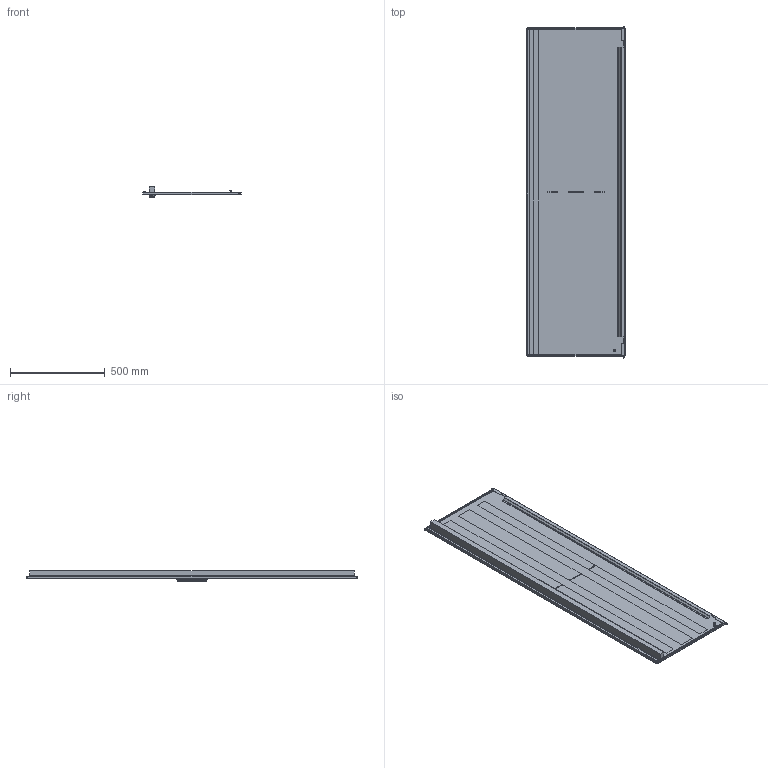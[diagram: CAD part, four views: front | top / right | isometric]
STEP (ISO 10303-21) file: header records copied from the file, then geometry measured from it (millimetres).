
FILE_DESCRIPTION (( 'STEP AP203' ), '1' );
FILE_NAME ('D 180.60 IP Äâåðü òåëåêîììóíèêàöèîííàÿ ïåðôîðèðîâàííàÿ.STEP', '2013-01-15T06:47:24', ( 'System' ), ( '' ), 'SwSTEP 2.0', 'SolidWorks 2012', '' );
FILE_SCHEMA (( 'CONFIG_CONTROL_DESIGN' ));
Length unit declared in the file: millimetre
Products named in the file (1): D 180.60 IP Äâåðü òåëåêîììóíèêàöèîííàÿ ïåðôîðèðîâàííàÿ
Bounding box: 518 x 1753.5 x 55 mm (x, y, z)
Volume: 3536732.2 mm3; surface area: 2232080 mm2
Topology: 5 solids, 5 shells, 258 faces, 626 edges, 366 vertices
Faces by surface type: cylinder 124, plane 86, sphere 24, cone 20, torus 4
Entity records: 7521 total; most frequent: DIRECTION 1402, CARTESIAN_POINT 1231, ORIENTED_EDGE 1212, EDGE_CURVE 606, AXIS2_PLACEMENT_3D 537, VERTEX_POINT 366, VECTOR 328, LINE 328
